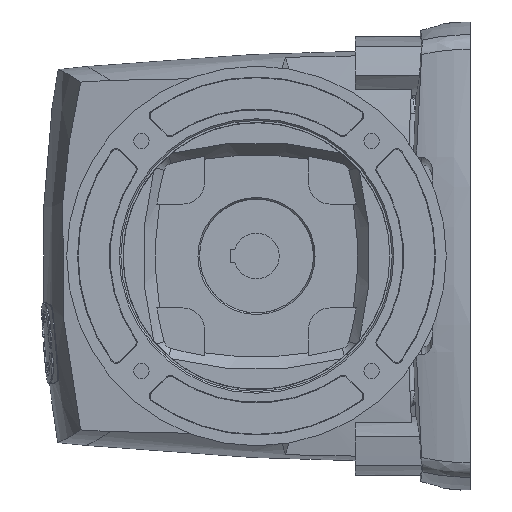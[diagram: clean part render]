
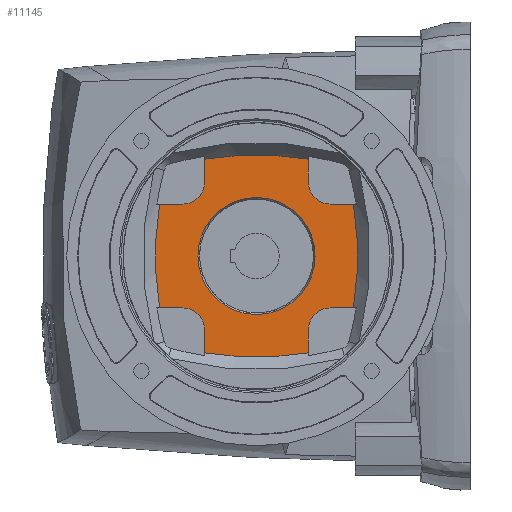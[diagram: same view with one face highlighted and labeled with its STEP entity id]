
A CAD part, left-side view. The second image highlights one B-rep face of the part: STEP entity #11145.
In plain terms, the highlighted planar face has unit normal (-1, 0, 0).
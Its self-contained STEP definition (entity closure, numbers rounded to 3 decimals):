
#1057=CARTESIAN_POINT('',(-428.096,119.817,97.075));
#1069=CARTESIAN_POINT('',(-428.1,24.051,97.072));
#1129=CARTESIAN_POINT('',(-428.1,4.034,118.464));
#1130=DIRECTION('',(1.,0.,0.));
#1131=DIRECTION('',(0.,1.,0.001));
#1132=AXIS2_PLACEMENT_3D('',#1129,#1130,#1131);
#1134=DIRECTION('',(0.,0.,1.));
#1135=VECTOR('',#1134,21.41);
#1136=CARTESIAN_POINT('',(-428.1,24.051,97.072));
#1137=LINE('',#1136,#1135);
#1138=CARTESIAN_POINT('',(-428.04,71.934,392.761));
#1139=DIRECTION('',(-1.,0.,0.));
#1140=DIRECTION('',(0.,0.16,-0.987));
#1141=AXIS2_PLACEMENT_3D('',#1138,#1139,#1140);
#1143=CARTESIAN_POINT('',(-428.1,139.834,118.464));
#1144=DIRECTION('',(1.,0.,0.));
#1145=DIRECTION('',(0.,-0.001,1.));
#1146=AXIS2_PLACEMENT_3D('',#1143,#1144,#1145);
#1148=DIRECTION('',(0.,-1.,0.));
#1149=VECTOR('',#1148,21.411);
#1150=CARTESIAN_POINT('',(-428.1,161.227,138.481));
#1151=LINE('',#1150,#1149);
#1152=CARTESIAN_POINT('',(-428.031,-134.463,
186.364));
#1153=DIRECTION('',(-1.,0.,0.));
#1154=DIRECTION('',(0.,0.987,0.16));
#1155=AXIS2_PLACEMENT_3D('',#1152,#1153,#1154);
#1157=CARTESIAN_POINT('',(-428.1,139.834,254.264));
#1158=DIRECTION('',(1.,0.,0.));
#1159=DIRECTION('',(0.,-1.,-0.001));
#1160=AXIS2_PLACEMENT_3D('',#1157,#1158,#1159);
#1162=DIRECTION('',(0.,0.,-1.));
#1163=VECTOR('',#1162,21.411);
#1164=CARTESIAN_POINT('',(-428.1,119.817,275.657));
#1165=LINE('',#1164,#1163);
#1166=CARTESIAN_POINT('',(-428.031,71.934,
-20.033));
#1167=DIRECTION('',(-1.,0.,0.));
#1168=DIRECTION('',(0.,-0.16,0.987));
#1169=AXIS2_PLACEMENT_3D('',#1166,#1167,#1168);
#1171=CARTESIAN_POINT('',(-428.1,4.034,254.264));
#1172=DIRECTION('',(1.,0.,0.));
#1173=DIRECTION('',(0.,0.,-1.));
#1174=AXIS2_PLACEMENT_3D('',#1171,#1172,#1173);
#1176=DIRECTION('',(0.,1.,0.));
#1177=VECTOR('',#1176,21.406);
#1178=CARTESIAN_POINT('',(-428.1,-17.358,
234.247));
#1179=LINE('',#1178,#1177);
#1180=CARTESIAN_POINT('',(-428.031,278.331,186.364));
#1181=DIRECTION('',(-1.,0.,0.));
#1182=DIRECTION('',(0.,-0.987,-0.16));
#1183=AXIS2_PLACEMENT_3D('',#1180,#1181,#1182);
#1185=CARTESIAN_POINT('',(-428.1,71.934,186.364));
#1186=DIRECTION('',(1.,0.,0.));
#1187=DIRECTION('',(0.,1.,0.));
#1188=AXIS2_PLACEMENT_3D('',#1185,#1186,#1187);
#1190=CARTESIAN_POINT('',(-428.1,71.934,186.364));
#1191=DIRECTION('',(1.,0.,0.));
#1192=DIRECTION('',(0.,0.,-1.));
#1193=AXIS2_PLACEMENT_3D('',#1190,#1191,#1192);
#1195=CARTESIAN_POINT('',(-428.1,71.934,186.364));
#1196=DIRECTION('',(1.,0.,0.));
#1197=DIRECTION('',(0.,-1.,0.));
#1198=AXIS2_PLACEMENT_3D('',#1195,#1196,#1197);
#1208=DIRECTION('',(0.,1.,0.));
#1209=VECTOR('',#1208,21.409);
#1210=CARTESIAN_POINT('',(-428.096,-17.356,
138.482));
#1211=LINE('',#1210,#1209);
#1246=DIRECTION('',(0.,0.,1.));
#1247=VECTOR('',#1246,21.408);
#1248=CARTESIAN_POINT('',(-428.096,119.817,97.075));
#1249=LINE('',#1248,#1247);
#1258=DIRECTION('',(0.,-1.,0.));
#1259=VECTOR('',#1258,21.409);
#1260=CARTESIAN_POINT('',(-428.096,161.224,234.247));
#1261=LINE('',#1260,#1259);
#1304=DIRECTION('',(0.,0.,-1.));
#1305=VECTOR('',#1304,21.404);
#1306=CARTESIAN_POINT('',(-428.096,24.051,275.654));
#1307=LINE('',#1306,#1305);
#9177=CARTESIAN_POINT('',(-428.101,-17.361,
138.481));
#9178=CARTESIAN_POINT('',(-428.101,-17.361,
234.248));
#9179=VERTEX_POINT('',#9177);
#9180=VERTEX_POINT('',#9178);
#9181=CARTESIAN_POINT('',(-428.101,24.051,275.659));
#9182=CARTESIAN_POINT('',(-428.101,119.818,275.659));
#9183=VERTEX_POINT('',#9181);
#9184=VERTEX_POINT('',#9182);
#9208=CARTESIAN_POINT('',(-428.1,125.868,186.364));
#9209=CARTESIAN_POINT('',(-428.1,18.,186.364));
#9210=VERTEX_POINT('',#9208);
#9211=VERTEX_POINT('',#9209);
#9214=CARTESIAN_POINT('',(-428.1,4.04,234.246));
#9215=CARTESIAN_POINT('',(-428.1,24.053,254.255));
#9216=VERTEX_POINT('',#9214);
#9217=VERTEX_POINT('',#9215);
#9226=CARTESIAN_POINT('',(-428.1,24.053,118.483));
#9227=CARTESIAN_POINT('',(-428.1,4.056,138.483));
#9228=VERTEX_POINT('',#9226);
#9229=VERTEX_POINT('',#9227);
#9344=CARTESIAN_POINT('',(-428.1,119.816,254.246));
#9345=CARTESIAN_POINT('',(-428.1,139.813,234.246));
#9346=VERTEX_POINT('',#9344);
#9347=VERTEX_POINT('',#9345);
#9348=CARTESIAN_POINT('',(-428.1,71.934,132.43));
#9349=VERTEX_POINT('',#9348);
#9357=VERTEX_POINT('',#1069);
#9359=CARTESIAN_POINT('',(-428.1,119.816,118.483));
#9361=VERTEX_POINT('',#9359);
#9362=VERTEX_POINT('',#1057);
#9368=CARTESIAN_POINT('',(-428.1,139.816,138.482));
#9369=VERTEX_POINT('',#9368);
#9370=CARTESIAN_POINT('',(-428.096,161.224,234.247));
#9371=VERTEX_POINT('',#9370);
#9372=CARTESIAN_POINT('',(-428.101,161.229,138.481));
#9373=VERTEX_POINT('',#9372);
#11103=CARTESIAN_POINT('',(-428.1,71.934,
186.364));
#11104=DIRECTION('',(-1.,0.,0.));
#11105=DIRECTION('',(0.,0.,1.));
#11106=AXIS2_PLACEMENT_3D('',#11103,#11104,#11105);
#11107=PLANE('',#11106);
#11109=ORIENTED_EDGE('',*,*,#11108,.F.);
#11111=ORIENTED_EDGE('',*,*,#11110,.F.);
#11112=ORIENTED_EDGE('',*,*,#10998,.F.);
#11114=ORIENTED_EDGE('',*,*,#11113,.T.);
#11116=ORIENTED_EDGE('',*,*,#11115,.F.);
#11117=ORIENTED_EDGE('',*,*,#11094,.F.);
#11118=ORIENTED_EDGE('',*,*,#10694,.F.);
#11120=ORIENTED_EDGE('',*,*,#11119,.T.);
#11122=ORIENTED_EDGE('',*,*,#11121,.F.);
#11124=ORIENTED_EDGE('',*,*,#11123,.F.);
#11125=ORIENTED_EDGE('',*,*,#10796,.F.);
#11127=ORIENTED_EDGE('',*,*,#11126,.T.);
#11129=ORIENTED_EDGE('',*,*,#11128,.F.);
#11131=ORIENTED_EDGE('',*,*,#11130,.F.);
#11132=ORIENTED_EDGE('',*,*,#10897,.F.);
#11134=ORIENTED_EDGE('',*,*,#11133,.T.);
#11135=EDGE_LOOP('',(#11109,#11111,#11112,#11114,#11116,#11117,#11118,#11120,
#11122,#11124,#11125,#11127,#11129,#11131,#11132,#11134));
#11136=FACE_OUTER_BOUND('',#11135,.F.);
#11138=ORIENTED_EDGE('',*,*,#11137,.F.);
#11140=ORIENTED_EDGE('',*,*,#11139,.F.);
#11142=ORIENTED_EDGE('',*,*,#11141,.F.);
#11143=EDGE_LOOP('',(#11138,#11140,#11142));
#11144=FACE_BOUND('',#11143,.F.);
#11145=ADVANCED_FACE('',(#11136,#11144),#11107,.T.);
#1133=CIRCLE('',#1132,20.019);
#1142=CIRCLE('',#1141,299.544);
#1147=CIRCLE('',#1146,20.019);
#1156=CIRCLE('',#1155,299.544);
#1161=CIRCLE('',#1160,20.019);
#1170=CIRCLE('',#1169,299.544);
#1175=CIRCLE('',#1174,20.019);
#1184=CIRCLE('',#1183,299.544);
#1189=CIRCLE('',#1188,53.934);
#1194=CIRCLE('',#1193,53.934);
#1199=CIRCLE('',#1198,53.934);
#10694=EDGE_CURVE('',#9371,#9373,#1156,.T.);
#10796=EDGE_CURVE('',#9183,#9184,#1170,.T.);
#10897=EDGE_CURVE('',#9179,#9180,#1184,.T.);
#10998=EDGE_CURVE('',#9362,#9357,#1142,.T.);
#11094=EDGE_CURVE('',#9373,#9369,#1151,.T.);
#11108=EDGE_CURVE('',#9228,#9229,#1133,.T.);
#11110=EDGE_CURVE('',#9357,#9228,#1137,.T.);
#11113=EDGE_CURVE('',#9362,#9361,#1249,.T.);
#11115=EDGE_CURVE('',#9369,#9361,#1147,.T.);
#11119=EDGE_CURVE('',#9371,#9347,#1261,.T.);
#11121=EDGE_CURVE('',#9346,#9347,#1161,.T.);
#11123=EDGE_CURVE('',#9184,#9346,#1165,.T.);
#11126=EDGE_CURVE('',#9183,#9217,#1307,.T.);
#11128=EDGE_CURVE('',#9216,#9217,#1175,.T.);
#11130=EDGE_CURVE('',#9180,#9216,#1179,.T.);
#11133=EDGE_CURVE('',#9179,#9229,#1211,.T.);
#11137=EDGE_CURVE('',#9210,#9211,#1189,.T.);
#11139=EDGE_CURVE('',#9349,#9210,#1194,.T.);
#11141=EDGE_CURVE('',#9211,#9349,#1199,.T.);
